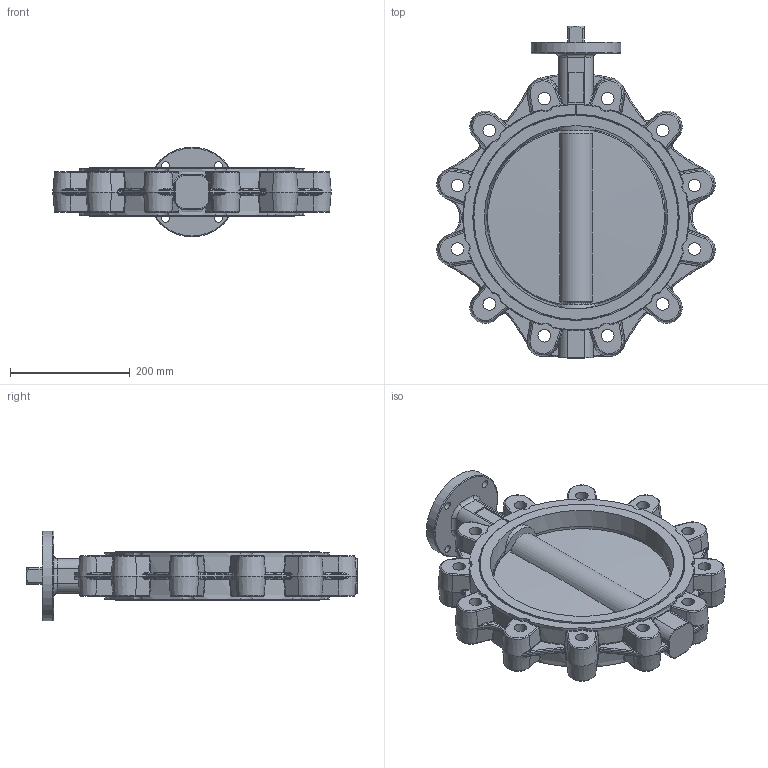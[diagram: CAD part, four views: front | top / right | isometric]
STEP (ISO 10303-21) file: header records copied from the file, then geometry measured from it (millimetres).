
FILE_DESCRIPTION (( 'STEP AP203' ), '1' );
FILE_NAME ('L9.DN300.STEP', '2013-01-17T07:51:47', ( 'luca.saino' ), ( 'Hewlett-Packard Company' ), 'SwSTEP 2.0', 'SolidWorks 2012', '' );
FILE_SCHEMA (( 'CONFIG_CONTROL_DESIGN' ));
Length unit declared in the file: millimetre
Products named in the file (1): L9.DN300
Bounding box: 465.32 x 554.5 x 150 mm (x, y, z)
Volume: 7954837.1 mm3; surface area: 946653.5 mm2
Topology: 4 solids, 4 shells, 912 faces, 2162 edges, 1218 vertices
Faces by surface type: cylinder 224, bspline 206, torus 183, plane 171, cone 74, sphere 54
Full cylindrical faces by diameter (mm): 13 x4, 21 x12, 27 x1, 28.2 x1, 29 x1, 29.8 x2, 30.4 x1, 30.9 x1, 31.8 x2, 32.5 x1, 34 x1, 49.553 x1, 150 x1, 341.2 x2, 343.9 x1
Entity records: 35899 total; most frequent: CARTESIAN_POINT 16923, ORIENTED_EDGE 4092, DIRECTION 3836, EDGE_CURVE 2046, AXIS2_PLACEMENT_3D 1674, VERTEX_POINT 1193, EDGE_LOOP 1007, CIRCLE 967
